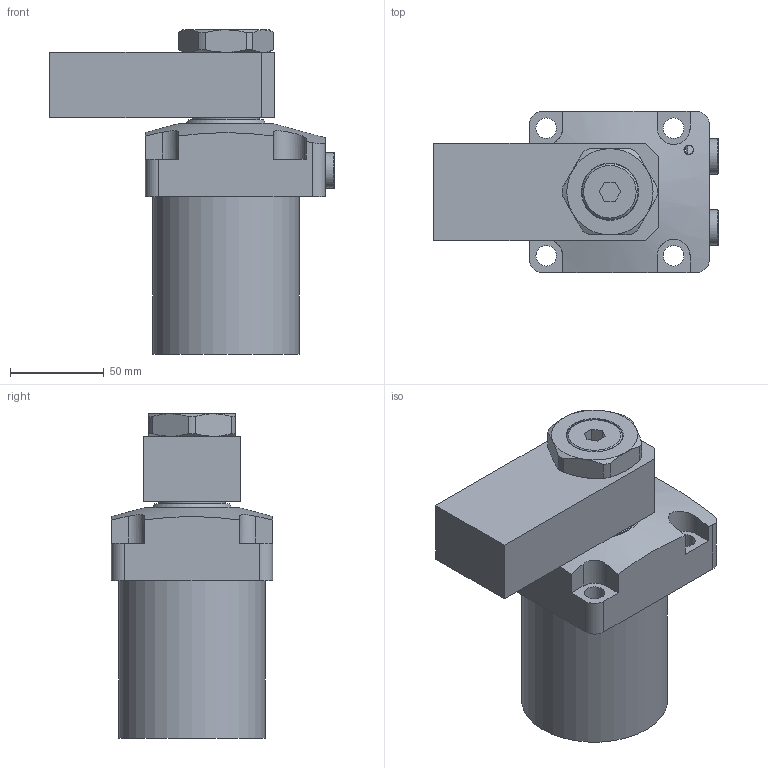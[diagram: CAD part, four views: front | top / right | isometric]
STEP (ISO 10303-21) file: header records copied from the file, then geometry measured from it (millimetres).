
FILE_DESCRIPTION(/* description */ (''),/* implementation_level */ '2;1');
FILE_NAME(/* name */ 'TRC16-L(带锥套-压板).stp',/* time_stamp */ '2025-07-21T11:28:39+08:00',/* author */ (''),/* organization */ (''),/* preprocessor_version */ 'ST-DEVELOPER v16.7',/* originating_system */ 'SIEMENS PLM Software NX 12.0',/* authorisation */ '');
FILE_SCHEMA (('AP203_CONFIGURATION_CONTROLLED_3D_DESIGN_OF_MECHANICAL_PARTS_AND_ASSEMBLIES_MIM_LF { 1 0 10303 403 2 1 2}'));
Length unit declared in the file: millimetre
Products named in the file (1): 123FE38B2C6q4lv
Bounding box: 151.8 x 86 x 173 mm (x, y, z)
Volume: 912000.3 mm3; surface area: 109276.2 mm2
Topology: 7 solids, 7 shells, 168 faces, 391 edges, 252 vertices
Faces by surface type: plane 82, cylinder 48, cone 32, torus 5, sphere 1
Full cylindrical faces by diameter (mm): 5 x2, 11 x6, 11.21 x2, 11.6 x2, 13.157 x4, 19 x2, 21.5 x2, 28 x1, 30 x2, 35.5 x2, 40 x1, 47.5 x1, 78 x1
Entity records: 6022 total; most frequent: CARTESIAN_POINT 1257, DIRECTION 716, ORIENTED_EDGE 660, EDGE_CURVE 330, AXIS2_PLACEMENT_3D 287, EDGE_LOOP 243, VERTEX_POINT 237, ADVANCED_FACE 167
